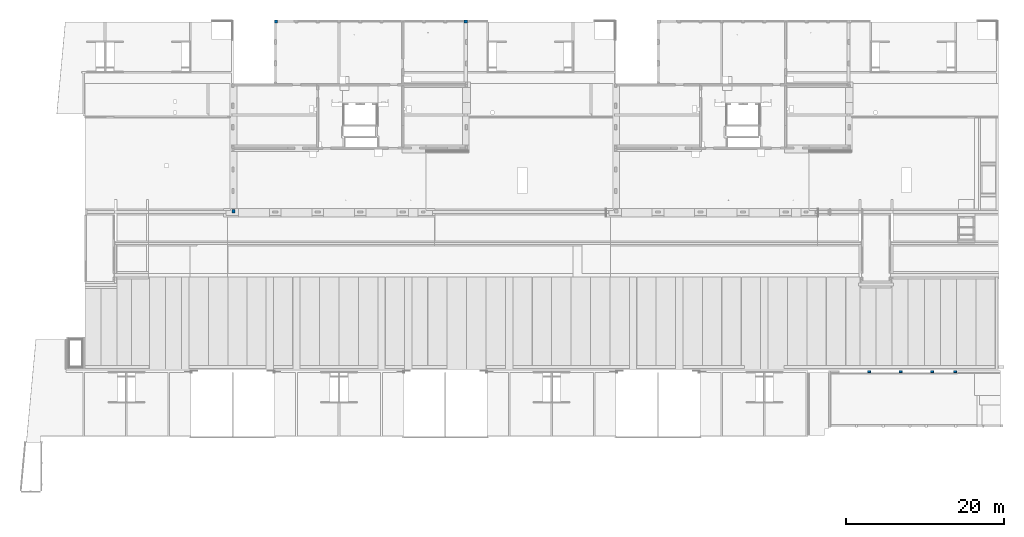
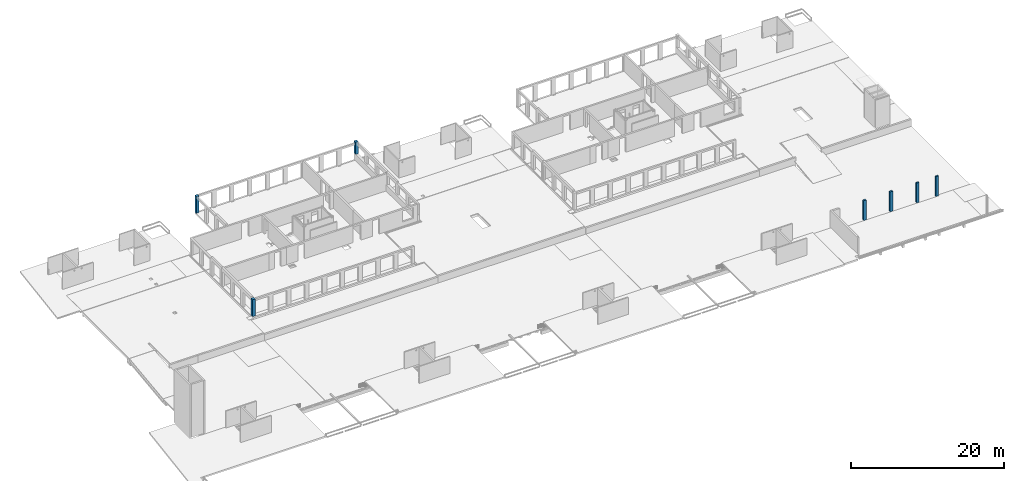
# One storey, part 1 of 36: 7 columns.
"""IFC2X3 building model written with IfcOpenShell, lengths in millimetres."""

from ifc_helpers import new_model, entity, si_unit, converted_unit, derived_unit, direction, frame, frame_2d, origin, origin_2d_with_axis, place, context, subcontext, project, spatial, rectangle, extrude, source, transform, mapped, material, type_object, type_shapes, element, save


model = new_model("IFC2X3")

# Units and contexts
model_context = context("Model", 3, precision=0.01, world=origin(), true_north=direction((6.12303176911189e-17, 1.0)))
body_context = subcontext(model_context, "Body", "Model", "MODEL_VIEW")
ifc_project = project(units=[si_unit("LENGTHUNIT", "METRE", prefix="MILLI"), si_unit("AREAUNIT", "SQUARE_METRE"), si_unit("VOLUMEUNIT", "CUBIC_METRE"), converted_unit("PLANEANGLEUNIT", "DEGREE", entity("IfcRatioMeasure", 0.0174532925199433), si_unit("PLANEANGLEUNIT", "RADIAN"), dimensions=[0, 0, 0, 0, 0, 0, 0]), si_unit("MASSUNIT", "GRAM", prefix="KILO"), derived_unit("MASSDENSITYUNIT", [(si_unit("MASSUNIT", "GRAM", prefix="KILO"), 1), (si_unit("LENGTHUNIT", "METRE"), -3)]), si_unit("TIMEUNIT", "SECOND"), si_unit("FREQUENCYUNIT", "HERTZ"), si_unit("THERMODYNAMICTEMPERATUREUNIT", "DEGREE_CELSIUS"), derived_unit("THERMALTRANSMITTANCEUNIT", [(si_unit("MASSUNIT", "GRAM", prefix="KILO"), 1), (si_unit("THERMODYNAMICTEMPERATUREUNIT", "KELVIN"), -1), (si_unit("TIMEUNIT", "SECOND"), -3)]), derived_unit("VOLUMETRICFLOWRATEUNIT", [(si_unit("LENGTHUNIT", "METRE"), 3), (si_unit("TIMEUNIT", "SECOND"), -1)]), si_unit("ELECTRICCURRENTUNIT", "AMPERE"), si_unit("ELECTRICVOLTAGEUNIT", "VOLT"), si_unit("POWERUNIT", "WATT"), si_unit("FORCEUNIT", "NEWTON", prefix="KILO"), si_unit("ILLUMINANCEUNIT", "LUX"), si_unit("LUMINOUSFLUXUNIT", "LUMEN"), si_unit("LUMINOUSINTENSITYUNIT", "CANDELA"), derived_unit("USERDEFINED", [(si_unit("MASSUNIT", "GRAM", prefix="KILO"), -1), (si_unit("LENGTHUNIT", "METRE"), -2), (si_unit("TIMEUNIT", "SECOND"), 3), (si_unit("LUMINOUSFLUXUNIT", "LUMEN"), 1)]), derived_unit("LINEARVELOCITYUNIT", [(si_unit("LENGTHUNIT", "METRE"), 1), (si_unit("TIMEUNIT", "SECOND"), -1)]), si_unit("PRESSUREUNIT", "PASCAL"), derived_unit("USERDEFINED", [(si_unit("LENGTHUNIT", "METRE"), -2), (si_unit("MASSUNIT", "GRAM", prefix="KILO"), 1), (si_unit("TIMEUNIT", "SECOND"), -2)])], contexts=[model_context])

# Site, building, storey
site_placement = place(None, origin())
site = spatial("IfcSite", under=ifc_project, at=site_placement, Name="Default", CompositionType="ELEMENT")
building_placement = place(site_placement, origin())
building = spatial("IfcBuilding", under=site, at=building_placement, Name="niet gebruiken", CompositionType="ELEMENT")
storey_placement = place(building_placement, frame((0.0, 0.0, 12600.0)))
storey = spatial("IfcBuildingStorey", under=building, at=storey_placement, Name="04 vierde verdieping", CompositionType="ELEMENT", Elevation=12600.0)

# Columns
ifc_material = material(Name="NLRS_f2_beton prefab")
column_type_1 = type_object("IfcColumnType", Name="410x410", PredefinedType="COLUMN", material=ifc_material)
shared_shape_1 = source(origin(), body_context, "Body", "SweptSolid", [
    extrude(rectangle(XDim=410.000000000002, YDim=410.000000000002, at=origin_2d_with_axis()), frame((56595.0, 53051.0, 13540.0), z_axis=(0.0, 0.0, 1.0), x_axis=(0.0, -1.0, 0.0)), (0.0, 0.0, 1.0), 1940.0),
])
type_shapes(column_type_1, [shared_shape_1])
column_1_placement = place(storey_placement, frame((0.0, 0.0, -12600.0)))
element("IfcColumn", 1, at=column_1_placement, inside=storey, type_object=column_type_1, material=ifc_material, Name="NLRS_28. kolom vierkant_gen:410x410", ObjectType="410x410", context=body_context, shape_type="MappedRepresentation", body=[
    mapped(shared_shape_1, transform((0.0, 0.0, 0.0), scale=1.0)),
])
column_type_2 = type_object("IfcColumnType", Name="410x410", PredefinedType="COLUMN", material=ifc_material)
shared_shape_2 = source(origin(), body_context, "Body", "SweptSolid", [
    extrude(rectangle(XDim=410.000000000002, YDim=409.999999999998, at=frame_2d((8.66862137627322e-12, 0.0), x_axis=(1.0, 0.0))), frame((32505.0, 53051.0, 12530.0), z_axis=(0.0, 0.0, 1.0), x_axis=(0.0, -1.0, 0.0)), (0.0, 0.0, 1.0), 2700.0),
])
type_shapes(column_type_2, [shared_shape_2])
column_2_placement = place(storey_placement, frame((0.0, 0.0, -12600.0)))
element("IfcColumn", 2, at=column_2_placement, inside=storey, type_object=column_type_2, material=ifc_material, Name="NLRS_28. kolom vierkant_gen:410x410", ObjectType="410x410", context=body_context, shape_type="MappedRepresentation", body=[
    mapped(shared_shape_2, transform((0.0, 0.0, 0.0), scale=1.0)),
])
column_type_3 = type_object("IfcColumnType", Name="250x400", PredefinedType="COLUMN", material=ifc_material)
shared_shape_3 = source(origin(), body_context, "Body", "SweptSolid", [
    extrude(rectangle(XDim=250.000000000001, YDim=399.999999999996, at=frame_2d((1.08002495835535e-12, 0.0), x_axis=(1.0, 0.0))), frame((107800.0, 8621.0, 11930.0), z_axis=(0.0, 0.0, 1.0), x_axis=(0.0, -1.0, 0.0)), (0.0, 0.0, 1.0), 3170.0),
])
type_shapes(column_type_3, [shared_shape_3])
column_3_placement = place(storey_placement, frame((0.0, 0.0, -12600.0)))
element("IfcColumn", 3, at=column_3_placement, inside=storey, type_object=column_type_3, material=ifc_material, Name="NLRS_28. kolom vierkant_gen1:250x400", ObjectType="250x400", context=body_context, shape_type="MappedRepresentation", body=[
    mapped(shared_shape_3, transform((0.0, 0.0, 0.0), scale=1.0)),
])
column_type_4 = type_object("IfcColumnType", Name="250x400", PredefinedType="COLUMN", material=ifc_material)
shared_shape_4 = source(origin(), body_context, "Body", "SweptSolid", [
    extrude(rectangle(XDim=250.000000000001, YDim=399.999999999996, at=frame_2d((0.0, -1.73230318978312e-11), x_axis=(1.0, 0.0))), frame((111800.0, 8621.0, 11930.0), z_axis=(0.0, 0.0, 1.0), x_axis=(0.0, -1.0, 0.0)), (0.0, 0.0, 1.0), 3170.0),
])
type_shapes(column_type_4, [shared_shape_4])
column_4_placement = place(storey_placement, frame((0.0, 0.0, -12600.0)))
element("IfcColumn", 4, at=column_4_placement, inside=storey, type_object=column_type_4, material=ifc_material, Name="NLRS_28. kolom vierkant_gen1:250x400", ObjectType="250x400", context=body_context, shape_type="MappedRepresentation", body=[
    mapped(shared_shape_4, transform((0.0, 0.0, 0.0), scale=1.0)),
])
column_type_5 = type_object("IfcColumnType", Name="250x400", PredefinedType="COLUMN", material=ifc_material)
shared_shape_5 = source(origin(), body_context, "Body", "SweptSolid", [
    extrude(rectangle(XDim=250.000000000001, YDim=399.999999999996, at=frame_2d((0.0, 1.73230318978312e-11), x_axis=(1.0, 0.0))), frame((115800.0, 8621.0, 11930.0), z_axis=(0.0, 0.0, 1.0), x_axis=(0.0, -1.0, 0.0)), (0.0, 0.0, 1.0), 3170.0),
])
type_shapes(column_type_5, [shared_shape_5])
column_5_placement = place(storey_placement, frame((0.0, 0.0, -12600.0)))
element("IfcColumn", 5, at=column_5_placement, inside=storey, type_object=column_type_5, material=ifc_material, Name="NLRS_28. kolom vierkant_gen1:250x400", ObjectType="250x400", context=body_context, shape_type="MappedRepresentation", body=[
    mapped(shared_shape_5, transform((0.0, 0.0, 0.0), scale=1.0)),
])
column_type_6 = type_object("IfcColumnType", Name="250x400", PredefinedType="COLUMN", material=ifc_material)
shared_shape_6 = source(origin(), body_context, "Body", "SweptSolid", [
    extrude(rectangle(XDim=250.000000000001, YDim=399.999999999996, at=origin_2d_with_axis()), frame((118725.0, 8621.0, 11940.0), z_axis=(0.0, 0.0, 1.0), x_axis=(0.0, -1.0, 0.0)), (0.0, 0.0, 1.0), 3159.99999999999),
])
type_shapes(column_type_6, [shared_shape_6])
column_6_placement = place(storey_placement, frame((0.0, 0.0, -12600.0)))
element("IfcColumn", 6, at=column_6_placement, inside=storey, type_object=column_type_6, material=ifc_material, Name="NLRS_28. kolom vierkant_gen1:250x400", ObjectType="250x400", context=body_context, shape_type="MappedRepresentation", body=[
    mapped(shared_shape_6, transform((0.0, 0.0, 0.0), scale=1.0)),
])
column_type_7 = type_object("IfcColumnType", Name="410x410", PredefinedType="COLUMN", material=ifc_material)
shared_shape_7 = source(origin(), body_context, "Body", "SweptSolid", [
    extrude(rectangle(XDim=409.999999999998, YDim=409.999999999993, at=origin_2d_with_axis()), frame((27105.0, 28961.0, 12540.0), z_axis=(0.0, 0.0, 1.0), x_axis=(0.0, -1.0, 0.0)), (0.0, 0.0, 1.0), 2690.0),
])
type_shapes(column_type_7, [shared_shape_7])
column_7_placement = place(storey_placement, frame((0.0, 0.0, -12600.0)))
element("IfcColumn", 7, at=column_7_placement, inside=storey, type_object=column_type_7, material=ifc_material, Name="NLRS_28. kolom vierkant_gen1:410x410", ObjectType="410x410", context=body_context, shape_type="MappedRepresentation", body=[
    mapped(shared_shape_7, transform((0.0, 0.0, 0.0), scale=1.0)),
])

save(model, "model.ifc")
